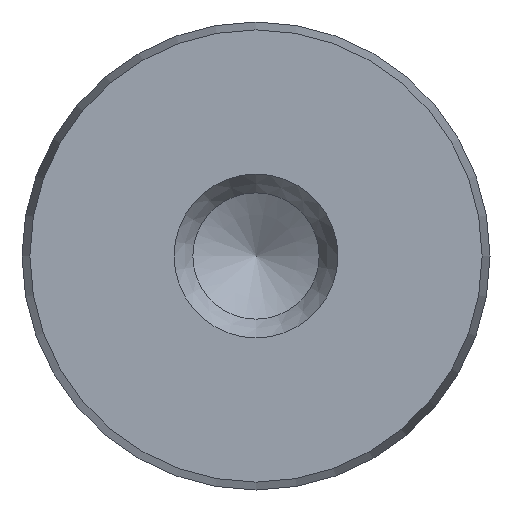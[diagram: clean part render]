
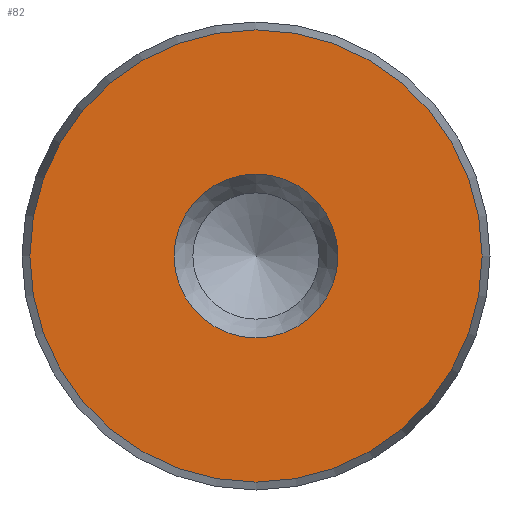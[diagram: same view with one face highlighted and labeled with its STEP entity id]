
A CAD part, front view. The second image highlights one B-rep face of the part: STEP entity #82.
In plain terms, the highlighted planar face has unit normal (0, -1, 0).
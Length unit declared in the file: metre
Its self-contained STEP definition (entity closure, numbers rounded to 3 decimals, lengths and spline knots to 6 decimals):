
#82 = ADVANCED_FACE( '', ( #108, #109 ), #110, .T. );
#108 = FACE_BOUND( '', #150, .T. );
#109 = FACE_OUTER_BOUND( '', #151, .T. );
#110 = PLANE( '', #152 );
#150 = EDGE_LOOP( '', ( #202 ) );
#151 = EDGE_LOOP( '', ( #203 ) );
#152 = AXIS2_PLACEMENT_3D( '', #204, #205, #206 );
#202 = ORIENTED_EDGE( '', *, *, #252, .T. );
#203 = ORIENTED_EDGE( '', *, *, #254, .T. );
#204 = CARTESIAN_POINT( '', ( 0., -0.08, 0. ) );
#205 = DIRECTION( '', ( 0., -1., 0. ) );
#206 = DIRECTION( '', ( 0., 0., -1. ) );
#252 = EDGE_CURVE( '', #270, #270, #271, .F. );
#254 = EDGE_CURVE( '', #274, #274, #275, .T. );
#270 = VERTEX_POINT( '', #296 );
#271 = CIRCLE( '', #297, 0.004375 );
#274 = VERTEX_POINT( '', #300 );
#275 = CIRCLE( '', #301, 0.012078 );
#296 = CARTESIAN_POINT( '', ( 0., -0.08, -0.004375 ) );
#297 = AXIS2_PLACEMENT_3D( '', #326, #327, #328 );
#300 = CARTESIAN_POINT( '', ( 0., -0.08, -0.012078 ) );
#301 = AXIS2_PLACEMENT_3D( '', #332, #333, #334 );
#326 = CARTESIAN_POINT( '', ( 0., -0.08, 0. ) );
#327 = DIRECTION( '', ( 0., -1., 0. ) );
#328 = DIRECTION( '', ( 0., 0., -1. ) );
#332 = CARTESIAN_POINT( '', ( 0., -0.08, 0. ) );
#333 = DIRECTION( '', ( 0., -1., 0. ) );
#334 = DIRECTION( '', ( 0., 0., -1. ) );
